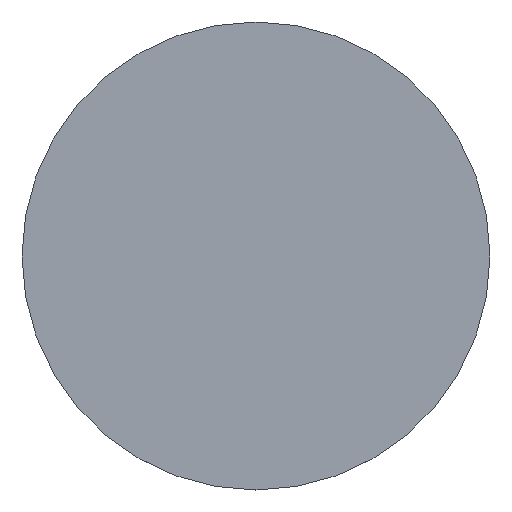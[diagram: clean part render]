
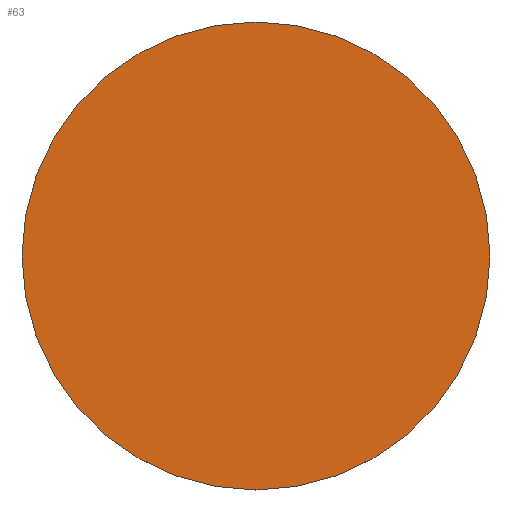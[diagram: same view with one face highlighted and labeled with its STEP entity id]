
A CAD part, top view. The second image highlights one B-rep face of the part: STEP entity #63.
In plain terms, the highlighted planar face has unit normal (0, 0, 1).
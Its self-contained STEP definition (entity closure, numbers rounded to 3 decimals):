
#26=CARTESIAN_POINT('',(0.0,0.0,19.0));
#27=DIRECTION('',(0.0,0.0,1.0));
#28=DIRECTION('',(1.0,0.0,0.0));
#29=AXIS2_PLACEMENT_3D('',#26,#27,#28);
#30=CIRCLE('',#29,1800.0);
#31=CARTESIAN_POINT('',(1800.0,0.0,19.0));
#32=VERTEX_POINT('',#31);
#33=EDGE_CURVE('',#32,#32,#30,.T.);
#55=CARTESIAN_POINT('',(0.0,0.0,19.0));
#56=DIRECTION('',(0.0,0.0,1.0));
#57=DIRECTION('',(1.0,0.0,0.0));
#58=AXIS2_PLACEMENT_3D('',#55,#56,#57);
#59=PLANE('',#58);
#60=ORIENTED_EDGE('',*,*,#33,.T.);
#61=EDGE_LOOP('',(#60));
#62=FACE_OUTER_BOUND('',#61,.T.);
#63=ADVANCED_FACE('',(#62),#59,.T.);
